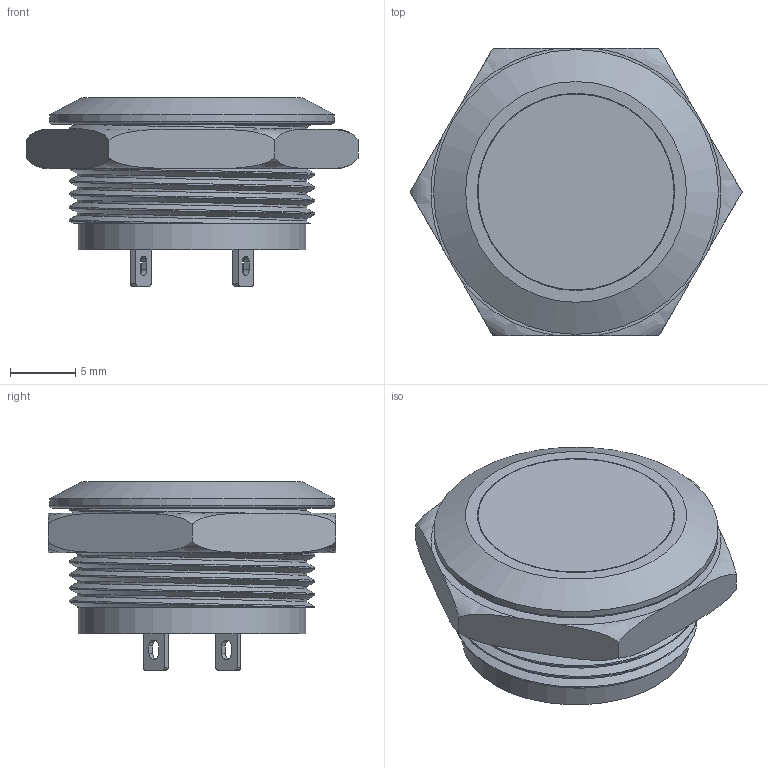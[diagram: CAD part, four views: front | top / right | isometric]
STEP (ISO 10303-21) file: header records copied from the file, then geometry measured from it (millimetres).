
FILE_DESCRIPTION(/* description */ (''),/* implementation_level */ '2;1');
FILE_NAME(/* name */ 'FM19S-SFP-10.stp',/* time_stamp */ '2020-08-05T10:17:53+08:00',/* author */ (''),/* organization */ (''),/* preprocessor_version */ 'ST-DEVELOPER v16.7',/* originating_system */ 'SIEMENS PLM Software NX 12.0',/* authorisation */ '');
FILE_SCHEMA (('AUTOMOTIVE_DESIGN { 1 0 10303 214 3 1 1 1 }'));
Length unit declared in the file: millimetre
Products named in the file (1): Admi4F983F75j4fi
Bounding box: 25.4 x 22 x 14.4 mm (x, y, z)
Volume: 2027.6 mm3; surface area: 3964.2 mm2
Topology: 1 solids, 3 shells, 279 faces, 732 edges, 484 vertices
Faces by surface type: plane 184, cylinder 56, torus 16, extrusion 12, bspline 7, cone 4
Full cylindrical faces by diameter (mm): 2.2 x2, 2.6 x1, 12.3 x1, 15 x2, 15.1 x2, 15.9 x1, 16.5 x1, 16.6 x2, 16.8 x2, 17.4 x1, 21.8 x1
Entity records: 11297 total; most frequent: CARTESIAN_POINT 3879, ORIENTED_EDGE 1392, DIRECTION 1190, EDGE_CURVE 696, VERTEX_POINT 471, VECTOR 454, LINE 442, AXIS2_PLACEMENT_3D 368
